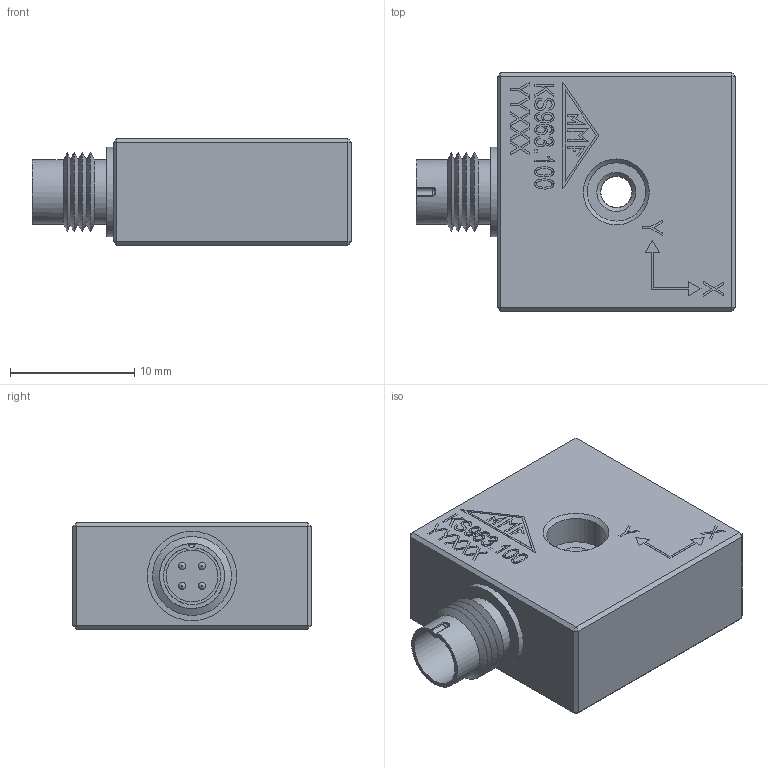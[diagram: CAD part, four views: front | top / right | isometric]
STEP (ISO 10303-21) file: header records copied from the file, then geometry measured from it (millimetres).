
FILE_DESCRIPTION(/* description */ ('Alibre Inc.'),/* implementation_level */ '2;1');
FILE_NAME(/* name */ 'export-7F9CF1EF-8FB8-49D3-ACE0-8D44EA6F68EC',/* time_stamp */ '2019-01-29T09:34:36+01:00',/* author */ (''),/* organization */ (''),/* preprocessor_version */ 'ST-DEVELOPER v17',/* originating_system */ 'Alibre',/* authorisation */ '');
FILE_SCHEMA (('CONFIG_CONTROL_DESIGN'));
Length unit declared in the file: millimetre
Products named in the file (1): ID_1
Bounding box: 25.7 x 19.2 x 8.6 mm (x, y, z)
Volume: 3003.6 mm3; surface area: 2061.3 mm2
Topology: 1 solids, 3 shells, 464 faces, 1189 edges, 778 vertices
Faces by surface type: plane 233, bspline 171, cylinder 38, cone 20, torus 2
Full cylindrical faces by diameter (mm): 0.45 x4, 0.58 x4, 0.8 x1, 0.9 x4, 1 x1, 2 x1, 2.05 x2, 2.5 x1, 2.55 x1, 4.18 x1, 4.6 x3, 4.7 x1, 5.2 x1, 5.23 x1, 5.7 x1, 6.28 x1, 6.3 x1, 7.2 x1
Entity records: 14094 total; most frequent: CARTESIAN_POINT 4419, ORIENTED_EDGE 2242, DIRECTION 1211, EDGE_CURVE 1121, VERTEX_POINT 766, VECTOR 683, LINE 683, FACE_BOUND 571
